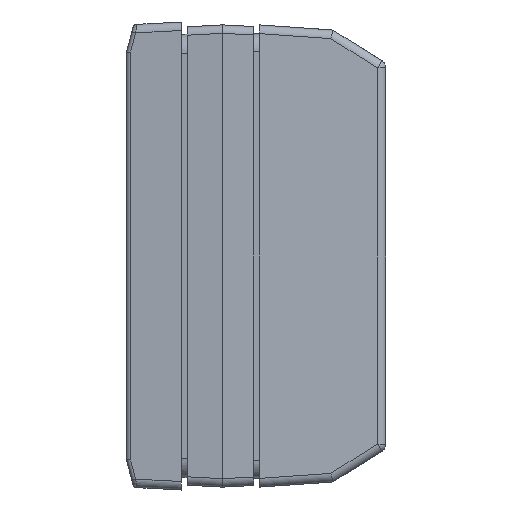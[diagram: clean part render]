
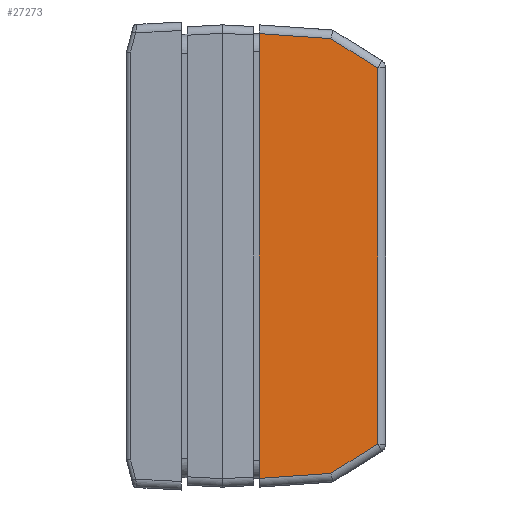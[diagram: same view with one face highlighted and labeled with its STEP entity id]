
A CAD part, left-side view. The second image highlights one B-rep face of the part: STEP entity #27273.
In plain terms, the highlighted planar face has unit normal (-0.998, -0.07, 0).
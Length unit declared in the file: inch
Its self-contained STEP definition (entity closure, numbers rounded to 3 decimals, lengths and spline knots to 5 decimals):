
#371 = ORIENTED_EDGE ( 'NONE', *, *, #31723, .T. ) ;
#1427 = AXIS2_PLACEMENT_3D ( 'NONE', #60663, #21160, #76652 ) ;
#6331 = VERTEX_POINT ( 'NONE', #96778 ) ;
#12210 = CARTESIAN_POINT ( 'NONE',  ( -2.99, 0., 1.57315 ) ) ;
#16063 = VECTOR ( 'NONE', #16397, 39.37008 ) ;
#16239 = LINE ( 'NONE', #96348, #56006 ) ;
#16397 = DIRECTION ( 'NONE',  ( -0.07, 0.995, 0.07 ) ) ;
#21160 = DIRECTION ( 'NONE',  ( -0.998, -0.07, 0. ) ) ;
#23332 = ORIENTED_EDGE ( 'NONE', *, *, #90124, .T. ) ;
#24374 = EDGE_CURVE ( 'NONE', #6331, #37604, #92223, .T. ) ;
#24397 = CARTESIAN_POINT ( 'NONE',  ( -2.93159, -0.83532, -1.33059 ) ) ;
#27273 = ADVANCED_FACE ( 'NONE', ( #65823 ), #75643, .T. ) ;
#31723 = EDGE_CURVE ( 'NONE', #35449, #6331, #48891, .T. ) ;
#31758 = DIRECTION ( 'NONE',  ( 0., 0., -1. ) ) ;
#33021 = DIRECTION ( 'NONE',  ( 0.059, -0.847, 0.529 ) ) ;
#35449 = VERTEX_POINT ( 'NONE', #24397 ) ;
#37054 = EDGE_CURVE ( 'NONE', #62250, #35449, #16239, .T. ) ;
#37135 = DIRECTION ( 'NONE',  ( 0., 0., 1. ) ) ;
#37304 = LINE ( 'NONE', #63923, #16063 ) ;
#37567 = ORIENTED_EDGE ( 'NONE', *, *, #24374, .T. ) ;
#37604 = VERTEX_POINT ( 'NONE', #41475 ) ;
#41475 = CARTESIAN_POINT ( 'NONE',  ( -2.95479, -0.50349, 1.53794 ) ) ;
#48891 = LINE ( 'NONE', #76586, #69904 ) ;
#52157 = VERTEX_POINT ( 'NONE', #79676 ) ;
#56006 = VECTOR ( 'NONE', #33021, 39.37008 ) ;
#58355 = EDGE_CURVE ( 'NONE', #94182, #52157, #98457, .T. ) ;
#60663 = CARTESIAN_POINT ( 'NONE',  ( -2.99, 0., 1.635 ) ) ;
#60784 = ORIENTED_EDGE ( 'NONE', *, *, #37054, .T. ) ;
#62250 = VERTEX_POINT ( 'NONE', #62385 ) ;
#62385 = CARTESIAN_POINT ( 'NONE',  ( -2.95479, -0.50349, -1.53794 ) ) ;
#63923 = CARTESIAN_POINT ( 'NONE',  ( -2.9903, 0.00428, 1.57345 ) ) ;
#65823 = FACE_OUTER_BOUND ( 'NONE', #88009, .T. ) ;
#69056 = DIRECTION ( 'NONE',  ( 0.07, -0.995, 0.07 ) ) ;
#69904 = VECTOR ( 'NONE', #37135, 39.37008 ) ;
#71138 = VECTOR ( 'NONE', #101227, 39.37008 ) ;
#75643 = PLANE ( 'NONE',  #1427 ) ;
#76128 = VECTOR ( 'NONE', #69056, 39.37008 ) ;
#76586 = CARTESIAN_POINT ( 'NONE',  ( -2.93159, -0.83532, 1.635 ) ) ;
#76652 = DIRECTION ( 'NONE',  ( 0.07, -0.998, 0. ) ) ;
#77409 = CARTESIAN_POINT ( 'NONE',  ( -2.95592, -0.48738, 1.54801 ) ) ;
#79201 = CARTESIAN_POINT ( 'NONE',  ( -2.99, 0., 1.635 ) ) ;
#79676 = CARTESIAN_POINT ( 'NONE',  ( -2.99, 0., -1.57315 ) ) ;
#80365 = ORIENTED_EDGE ( 'NONE', *, *, #58355, .T. ) ;
#88009 = EDGE_LOOP ( 'NONE', ( #37567, #100521, #80365, #23332, #60784, #371 ) ) ;
#90124 = EDGE_CURVE ( 'NONE', #52157, #62250, #97120, .T. ) ;
#92223 = LINE ( 'NONE', #77409, #71138 ) ;
#93500 = VECTOR ( 'NONE', #31758, 39.37008 ) ;
#94182 = VERTEX_POINT ( 'NONE', #12210 ) ;
#95422 = EDGE_CURVE ( 'NONE', #37604, #94182, #37304, .T. ) ;
#96348 = CARTESIAN_POINT ( 'NONE',  ( -2.92976, -0.86147, -1.31425 ) ) ;
#96778 = CARTESIAN_POINT ( 'NONE',  ( -2.93159, -0.83532, 1.33059 ) ) ;
#97120 = LINE ( 'NONE', #100567, #76128 ) ;
#98457 = LINE ( 'NONE', #79201, #93500 ) ;
#100521 = ORIENTED_EDGE ( 'NONE', *, *, #95422, .T. ) ;
#100567 = CARTESIAN_POINT ( 'NONE',  ( -2.97446, -0.22216, -1.55762 ) ) ;
#101227 = DIRECTION ( 'NONE',  ( -0.059, 0.847, 0.529 ) ) ;
